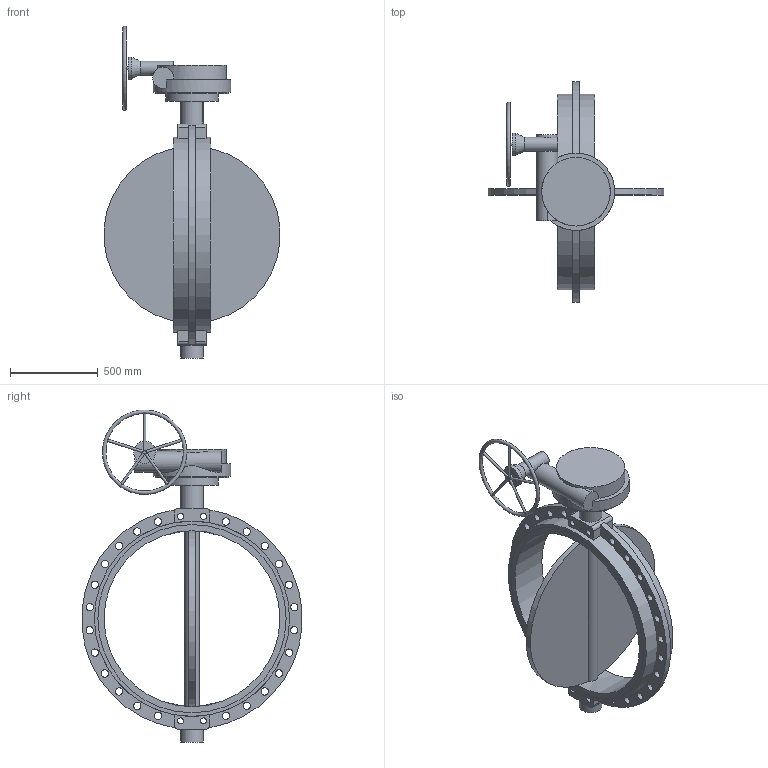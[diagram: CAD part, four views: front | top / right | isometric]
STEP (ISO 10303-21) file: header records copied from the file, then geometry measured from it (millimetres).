
FILE_DESCRIPTION(('STEP AP203'), '1');
FILE_NAME('青蜮铕 017WDN1000 疱潴牝铕', '', ('UNSPECIFIED'), ('UNSPECIFIED'), 'ASCON STEP Converter 1.6', 'ASCON Math Kernel', '');
FILE_SCHEMA(('CONFIG_CONTROL_DESIGN'));
Length unit declared in the file: millimetre
Bounding box: 999.17 x 1250.64 x 1887.48 mm (x, y, z)
Volume: 113085419.5 mm3; surface area: 5141335.5 mm2
Topology: 1 solids, 1 shells, 781 faces, 2196 edges, 1457 vertices
Faces by surface type: cylinder 570, plane 209, cone 1, torus 1
Full cylindrical faces by diameter (mm): 14 x13, 17.5 x8, 18 x8, 20 x2, 34.67 x4, 42 x24, 80 x1, 120 x1, 125 x1, 130 x2, 300 x1, 390 x1, 420 x1, 440 x1, 1000 x1, 1070 x2, 1110 x2
Entity records: 34641 total; most frequent: CARTESIAN_POINT 7335, DIRECTION 4791, ORIENTED_EDGE 4230, EDGE_CURVE 2115, AXIS2_PLACEMENT_3D 1949, VERTEX_POINT 1454, CIRCLE 1168, EDGE_LOOP 965
